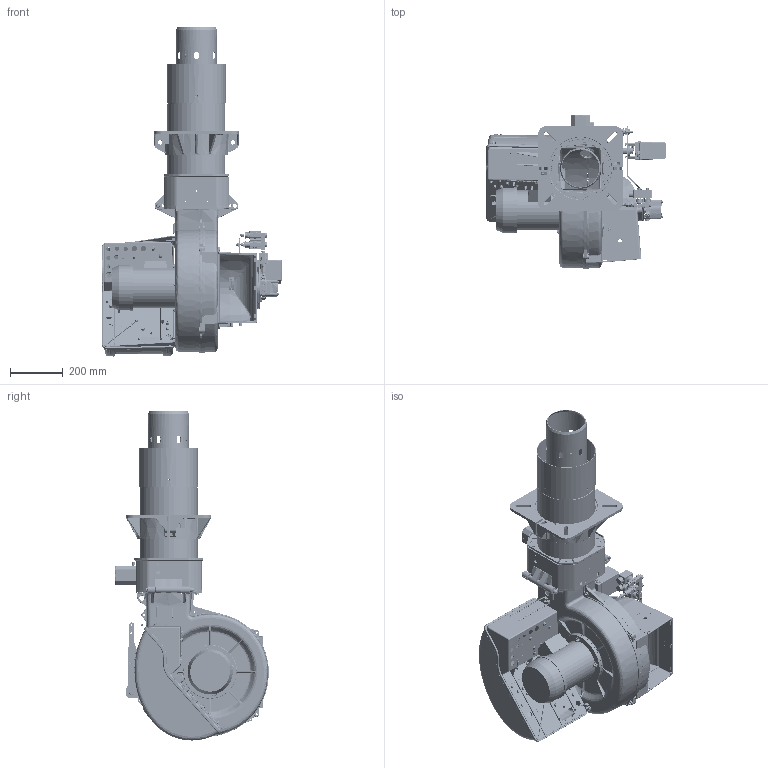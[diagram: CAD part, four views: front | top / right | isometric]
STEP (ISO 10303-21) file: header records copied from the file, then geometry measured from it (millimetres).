
FILE_DESCRIPTION (( 'STEP AP203' ), '1' );
FILE_NAME ('56530010-104720.STEP', '2016-11-18T15:16:13', ( '' ), ( '' ), 'SwSTEP 2.0', 'SolidWorks 2016', '' );
FILE_SCHEMA (( 'CONFIG_CONTROL_DESIGN' ));
Length unit declared in the file: millimetre
Products named in the file (1): 56530010-104720
Bounding box: 678.98 x 580.54 x 1242.93 mm (x, y, z)
Surface area: 3840970.5 mm2 (no closed solid volume)
Topology: 0 solids, 308 shells, 3743 faces, 16053 edges, 11940 vertices
Faces by surface type: plane 1408, cylinder 1123, bspline 933, cone 216, torus 46, sphere 17
Full cylindrical faces by diameter (mm): 3.242 x2, 3.3 x1, 3.7 x2, 4 x1, 4.2 x11, 4.5 x7, 4.8 x1, 5 x5, 5.4 x1, 5.5 x2, 5.857 x1, 6 x3, 6.2 x1, 6.25 x3, 6.5 x4, 6.8 x3, 7 x11, 7.9 x1, 8 x18, 8.2 x1, 8.3 x1, 8.5 x8, 8.728 x1, 8.8 x6, 9 x1, 9.5 x7, 9.64 x1, 9.728 x3, 10 x7, 10.4 x2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
Entity records: 308789 total; most frequent: CARTESIAN_POINT 198769, ORIENTED_EDGE 21895, DIRECTION 16547, EDGE_CURVE 15577, VERTEX_POINT 11843, B_SPLINE_CURVE_WITH_KNOTS 6796, LINE 6187, VECTOR 6187
